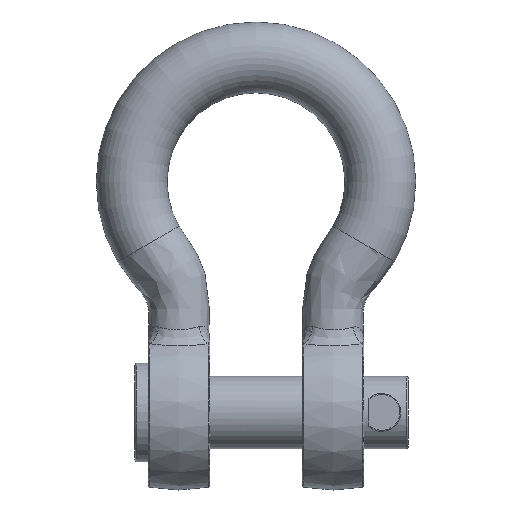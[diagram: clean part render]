
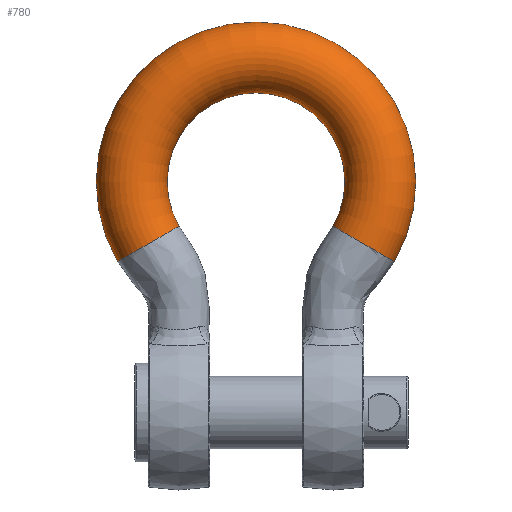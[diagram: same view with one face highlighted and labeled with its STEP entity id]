
A CAD part, top view. The second image highlights one B-rep face of the part: STEP entity #780.
In plain terms, the highlighted toroidal (fillet/blend) face has major radius 131.5 mm and minor radius 37.5 mm.
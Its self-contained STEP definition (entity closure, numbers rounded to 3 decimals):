
#68=TOROIDAL_SURFACE('',#924,131.5,37.5);
#144=FACE_OUTER_BOUND('',#192,.T.);
#192=EDGE_LOOP('',(#648,#649,#650,#651,#652,#653));
#280=CIRCLE('',#925,37.5);
#281=CIRCLE('',#926,37.5);
#282=CIRCLE('',#927,94.);
#283=CIRCLE('',#928,37.5);
#284=CIRCLE('',#929,37.5);
#358=VERTEX_POINT('',#3184);
#359=VERTEX_POINT('',#3185);
#360=VERTEX_POINT('',#3188);
#361=VERTEX_POINT('',#3190);
#462=EDGE_CURVE('',#358,#359,#280,.T.);
#463=EDGE_CURVE('',#359,#358,#281,.T.);
#464=EDGE_CURVE('',#359,#360,#282,.T.);
#465=EDGE_CURVE('',#360,#361,#283,.T.);
#466=EDGE_CURVE('',#361,#360,#284,.T.);
#648=ORIENTED_EDGE('',*,*,#462,.F.);
#649=ORIENTED_EDGE('',*,*,#463,.F.);
#650=ORIENTED_EDGE('',*,*,#464,.T.);
#651=ORIENTED_EDGE('',*,*,#465,.T.);
#652=ORIENTED_EDGE('',*,*,#466,.T.);
#653=ORIENTED_EDGE('',*,*,#464,.F.);
#780=ADVANCED_FACE('',(#144),#68,.T.);
#924=AXIS2_PLACEMENT_3D('',#3183,#1085,#1086);
#925=AXIS2_PLACEMENT_3D('',#3186,#1087,#1088);
#926=AXIS2_PLACEMENT_3D('',#3187,#1089,#1090);
#927=AXIS2_PLACEMENT_3D('',#3189,#1091,#1092);
#928=AXIS2_PLACEMENT_3D('',#3191,#1093,#1094);
#929=AXIS2_PLACEMENT_3D('',#3192,#1095,#1096);
#1085=DIRECTION('center_axis',(0.,0.,1.));
#1086=DIRECTION('ref_axis',(0.,1.,0.));
#1087=DIRECTION('center_axis',(0.5,-0.866,0.));
#1088=DIRECTION('ref_axis',(-0.866,-0.5,0.));
#1089=DIRECTION('center_axis',(0.5,-0.866,0.));
#1090=DIRECTION('ref_axis',(-0.866,-0.5,0.));
#1091=DIRECTION('center_axis',(0.,0.,-1.));
#1092=DIRECTION('ref_axis',(0.,1.,0.));
#1093=DIRECTION('center_axis',(0.5,0.866,0.));
#1094=DIRECTION('ref_axis',(0.866,-0.5,0.));
#1095=DIRECTION('center_axis',(0.5,0.866,0.));
#1096=DIRECTION('ref_axis',(0.866,-0.5,0.));
#3183=CARTESIAN_POINT('Origin',(0.,244.,0.));
#3184=CARTESIAN_POINT('',(-146.358,159.5,0.));
#3185=CARTESIAN_POINT('',(-81.406,197.,0.));
#3186=CARTESIAN_POINT('Origin',(-113.882,178.25,0.));
#3187=CARTESIAN_POINT('Origin',(-113.882,178.25,0.));
#3188=CARTESIAN_POINT('',(81.406,197.,0.));
#3189=CARTESIAN_POINT('Origin',(0.,244.,0.));
#3190=CARTESIAN_POINT('',(146.358,159.5,0.));
#3191=CARTESIAN_POINT('Origin',(113.882,178.25,0.));
#3192=CARTESIAN_POINT('Origin',(113.882,178.25,0.));
